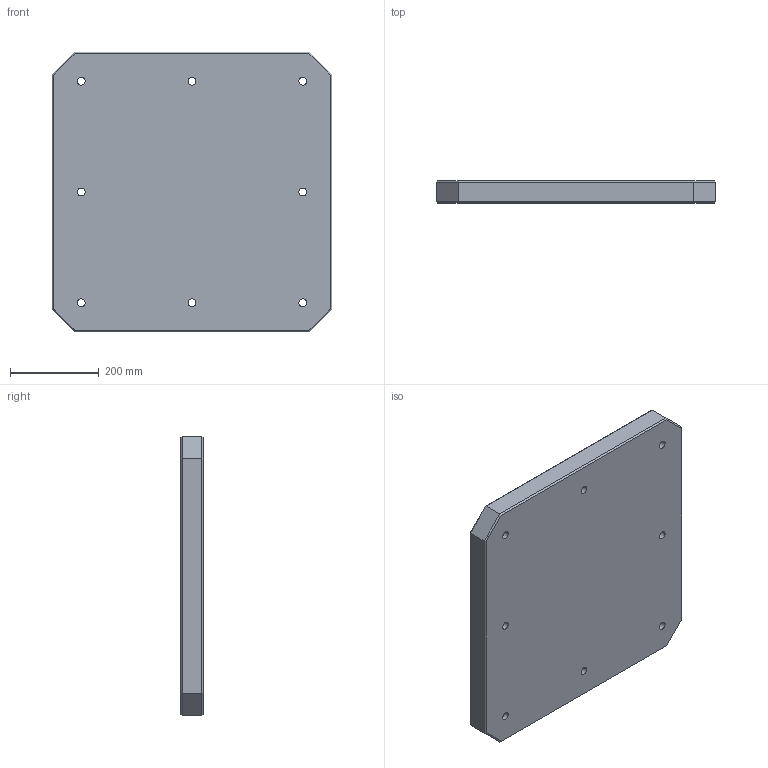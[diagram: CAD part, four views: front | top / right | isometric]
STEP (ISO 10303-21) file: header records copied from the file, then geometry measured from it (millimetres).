
FILE_DESCRIPTION((''),'2;1');
FILE_NAME('FG_WH_BASPL_SQPLNNP003','2026-05-17T12:30:20',('Admin'),(''),'CREO PARAMETRIC BY PTC INC, 2025010','CREO PARAMETRIC BY PTC INC, 2025010','');
FILE_SCHEMA(('CONFIG_CONTROL_DESIGN'));
Length unit declared in the file: millimetre
Products named in the file (1): FG_WH_BASPL_SQPLNNP003
Bounding box: 630 x 50 x 630 mm (x, y, z)
Volume: 19415357.8 mm3; surface area: 926499.6 mm2
Topology: 1 solids, 4 shells, 87 faces, 206 edges, 129 vertices
Faces by surface type: cylinder 44, plane 37, cone 6
Entity records: 2554 total; most frequent: DIRECTION 470, CARTESIAN_POINT 417, ORIENTED_EDGE 388, EDGE_CURVE 200, AXIS2_PLACEMENT_3D 182, VERTEX_POINT 129, EDGE_LOOP 117, VECTOR 106
